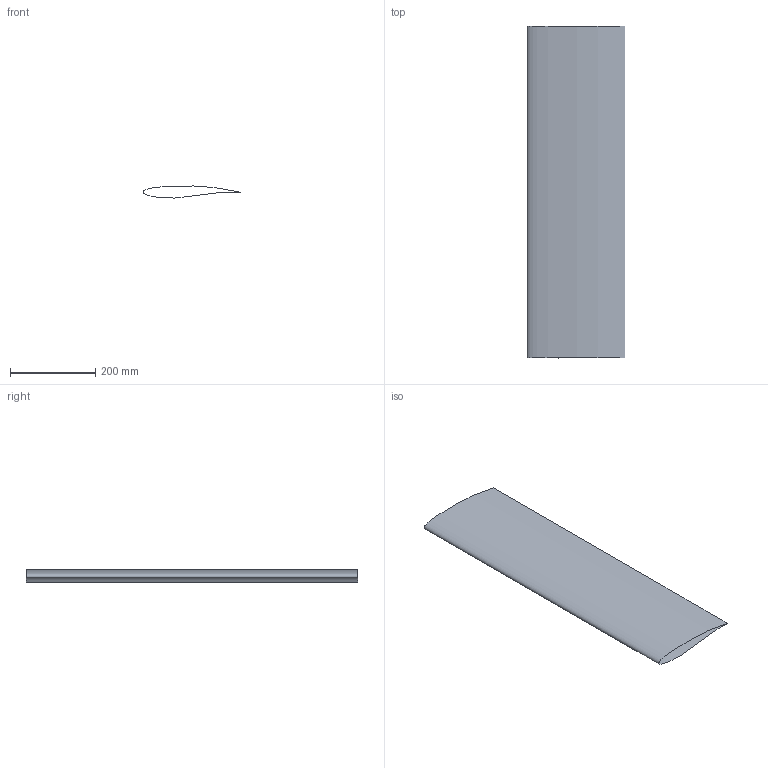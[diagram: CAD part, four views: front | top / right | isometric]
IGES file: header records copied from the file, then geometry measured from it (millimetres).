
Global section: date: 20240905.114159; units: millimetre
Bounding box: 229.99 x 780 x 28.32 mm (x, y, z)
Surface area: 366995.5 mm2 (no closed solid volume)
Topology: 0 solids, 0 shells, 2 faces, 8 edges, 8 vertices
Faces by surface type: bspline 2
